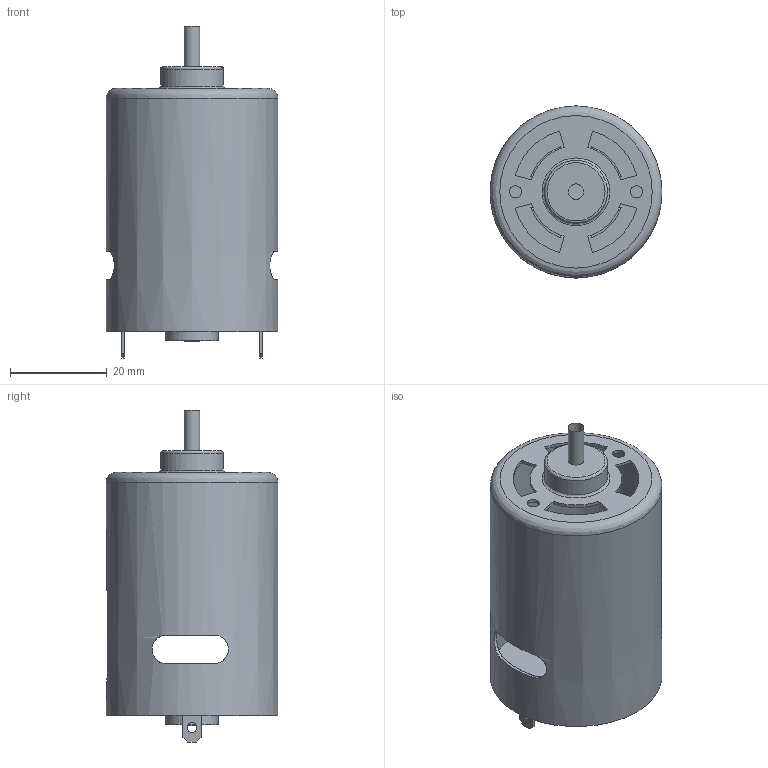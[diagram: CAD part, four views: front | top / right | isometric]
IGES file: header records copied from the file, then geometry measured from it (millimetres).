
Global section: file name: No Iges File Name specified; native system: AutoDesk Inventor R5.0; preprocessor: AutoDesk Inventor Iges Exporter R5.0; author: No Author specified; organization: No Organization specified; date: 20070111.005513; units: millimetre
Bounding box: 35.5 x 35.5 x 68.6 mm (x, y, z)
Surface area: 14584.2 mm2 (no closed solid volume)
Topology: 0 solids, 0 shells, 86 faces, 410 edges, 390 vertices
Faces by surface type: plane 43, revolution 35, bspline 8
